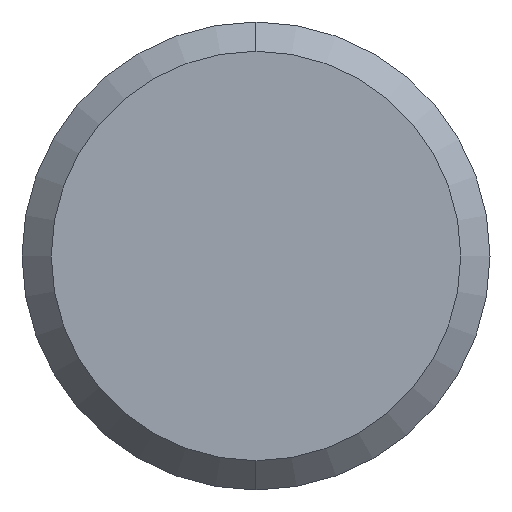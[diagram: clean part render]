
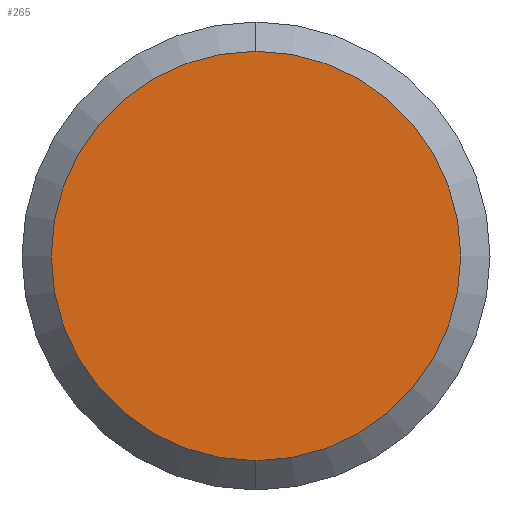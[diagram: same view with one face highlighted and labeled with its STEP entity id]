
A CAD part, left-side view. The second image highlights one B-rep face of the part: STEP entity #265.
In plain terms, the highlighted planar face has unit normal (-1, 0, 0).
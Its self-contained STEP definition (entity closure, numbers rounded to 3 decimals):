
#17 = ORIENTED_EDGE ( 'NONE', *, *, #234, .T. ) ;
#24 = VERTEX_POINT ( 'NONE', #414 ) ;
#31 = EDGE_LOOP ( 'NONE', ( #113, #17 ) ) ;
#48 = VERTEX_POINT ( 'NONE', #378 ) ;
#98 = FACE_OUTER_BOUND ( 'NONE', #31, .T. ) ;
#113 = ORIENTED_EDGE ( 'NONE', *, *, #254, .T. ) ;
#162 = AXIS2_PLACEMENT_3D ( 'NONE', #354, #353, #352 ) ;
#167 = CIRCLE ( 'NONE', #162, 3.5 ) ;
#195 = CIRCLE ( 'NONE', #197, 3.5 ) ;
#197 = AXIS2_PLACEMENT_3D ( 'NONE', #360, #370, #369 ) ;
#217 = AXIS2_PLACEMENT_3D ( 'NONE', #364, #362, #361 ) ;
#234 = EDGE_CURVE ( 'NONE', #48, #24, #195, .T. ) ;
#254 = EDGE_CURVE ( 'NONE', #24, #48, #167, .T. ) ;
#265 = ADVANCED_FACE ( 'NONE', ( #98 ), #365, .F. ) ;
#352 = DIRECTION ( 'NONE',  ( 0., 0., -1. ) ) ;
#353 = DIRECTION ( 'NONE',  ( -1., 0., 0. ) ) ;
#354 = CARTESIAN_POINT ( 'NONE',  ( 0., 0., 0. ) ) ;
#360 = CARTESIAN_POINT ( 'NONE',  ( 0., 0., 0. ) ) ;
#361 = DIRECTION ( 'NONE',  ( 0., 0., -1. ) ) ;
#362 = DIRECTION ( 'NONE',  ( 1., 0., 0. ) ) ;
#364 = CARTESIAN_POINT ( 'NONE',  ( 0., 4., 0. ) ) ;
#365 = PLANE ( 'NONE',  #217 ) ;
#369 = DIRECTION ( 'NONE',  ( 0., 0., -1. ) ) ;
#370 = DIRECTION ( 'NONE',  ( -1., 0., 0. ) ) ;
#378 = CARTESIAN_POINT ( 'NONE',  ( 0., 0., 3.5 ) ) ;
#414 = CARTESIAN_POINT ( 'NONE',  ( 0., 0., -3.5 ) ) ;
